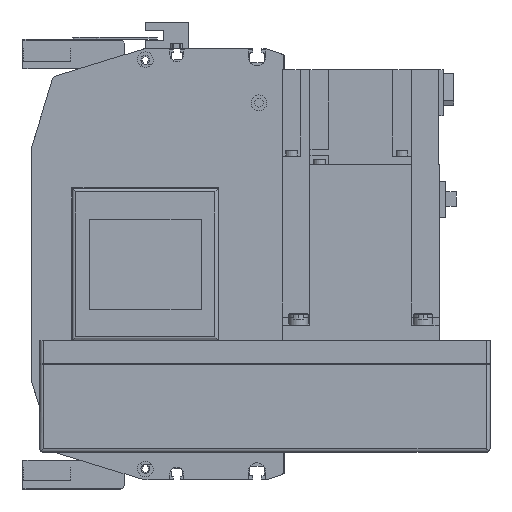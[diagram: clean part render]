
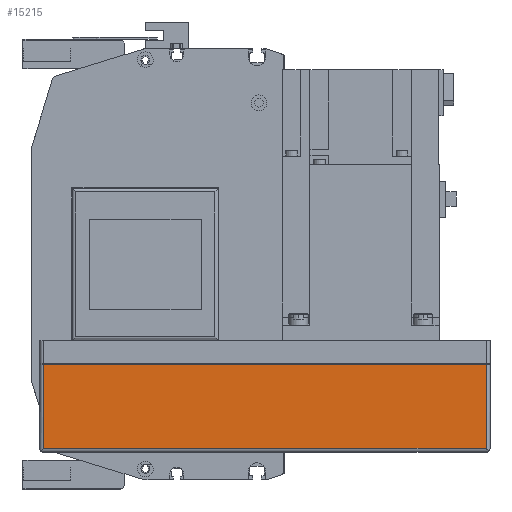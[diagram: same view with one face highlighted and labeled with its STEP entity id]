
A CAD part, left-side view. The second image highlights one B-rep face of the part: STEP entity #15215.
In plain terms, the highlighted planar face has unit normal (-1, 0, 0) as drawn and (0, 1, 0) by its records, which use the part's own axes.
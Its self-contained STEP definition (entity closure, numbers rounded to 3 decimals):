
#2580=ORIENTED_EDGE('',*,*,#6190,.F.);
#2581=ORIENTED_EDGE('',*,*,#6130,.T.);
#2582=ORIENTED_EDGE('',*,*,#6191,.F.);
#2583=ORIENTED_EDGE('',*,*,#6125,.F.);
#6125=EDGE_CURVE('',#8076,#8077,#9650,.T.);
#6130=EDGE_CURVE('',#8082,#8081,#9652,.T.);
#6190=EDGE_CURVE('',#8082,#8076,#9695,.T.);
#6191=EDGE_CURVE('',#8077,#8081,#9696,.T.);
#8076=VERTEX_POINT('',#23699);
#8077=VERTEX_POINT('',#23701);
#8081=VERTEX_POINT('',#23710);
#8082=VERTEX_POINT('',#23712);
#9650=LINE('',#23700,#11005);
#9652=LINE('',#23711,#11007);
#9695=LINE('',#23834,#11050);
#9696=LINE('',#23835,#11051);
#11005=VECTOR('',#18914,1000.);
#11007=VECTOR('',#18924,1000.);
#11050=VECTOR('',#19045,1000.);
#11051=VECTOR('',#19046,1000.);
#12214=EDGE_LOOP('',(#2580,#2581,#2582,#2583));
#13473=FACE_BOUND('',#12214,.T.);
#14570=PLANE('',#16339);
#15215=ADVANCED_FACE('',(#13473),#14570,.T.);
#16339=AXIS2_PLACEMENT_3D('',#23833,#19043,#19044);
#18914=DIRECTION('',(0.,0.,1.));
#18924=DIRECTION('',(0.,0.,1.));
#19043=DIRECTION('',(0.,1.,0.));
#19044=DIRECTION('',(0.,0.,1.));
#19045=DIRECTION('',(1.,0.,0.));
#19046=DIRECTION('',(-1.,0.,0.));
#23699=CARTESIAN_POINT('',(-2.,54.,-55.));
#23700=CARTESIAN_POINT('',(-2.,54.,-57.));
#23701=CARTESIAN_POINT('',(-2.,54.,-12.));
#23710=CARTESIAN_POINT('',(-228.,54.,-12.));
#23711=CARTESIAN_POINT('',(-228.,54.,-57.));
#23712=CARTESIAN_POINT('',(-228.,54.,-55.));
#23833=CARTESIAN_POINT('',(-2.,54.,-57.));
#23834=CARTESIAN_POINT('',(-230.,54.,-55.));
#23835=CARTESIAN_POINT('',(-2.,54.,-12.));
